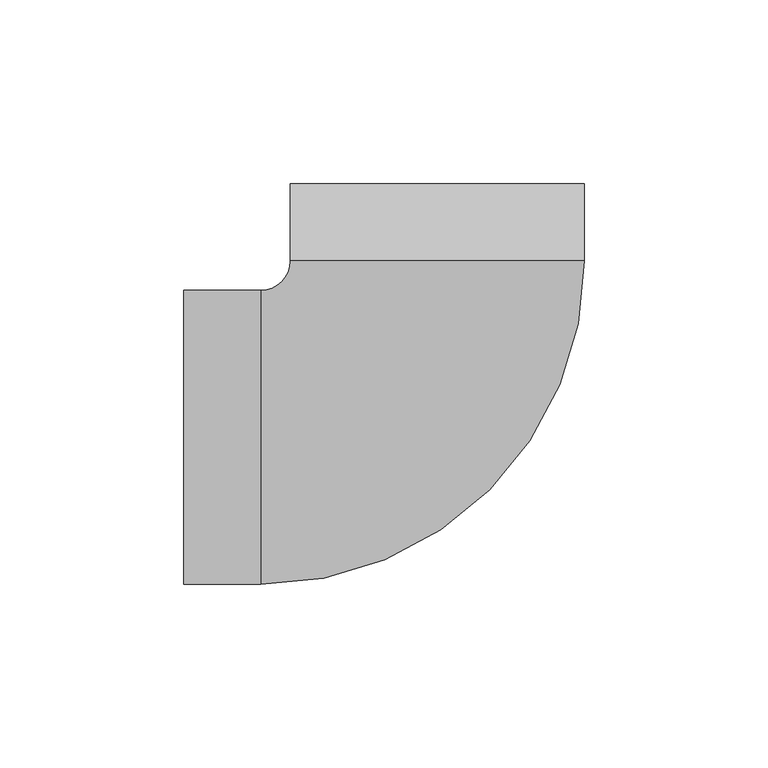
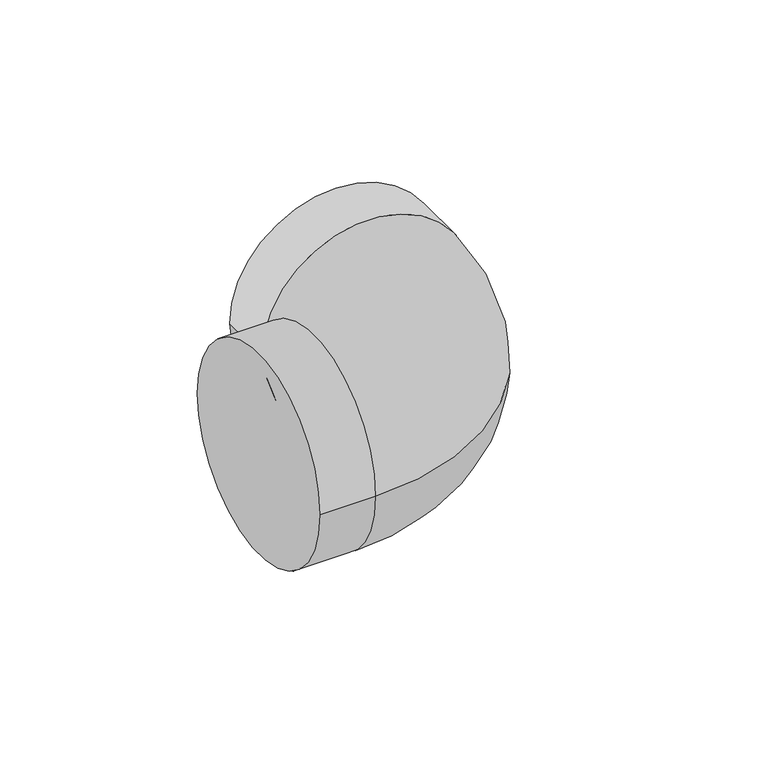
"""IFC4 building model written with IfcOpenShell, lengths in millimetres: pipe fitting geometry, PipeFitting_HTA_CPVC_Elbows : 63mm x 90°."""

from ifc_helpers import new_model, si_unit, point, frame, origin, place, context, project, spatial, circle_curve, ellipse_curve, trimmed, source, transform, mapped, element, save
from ifc_brep_helpers import plane_surface, cylinder_surface, revolved_surface, advanced_brep


def pipe_fitting_8b05869d(model_context):
    return source(origin(), model_context, "Body", "AdvancedBrep", [
        advanced_brep(
        [(-69.0, -40.0, 0.0), (-69.0, 40.0, 0.0), (-48.0, -40.0, 0.0), (-48.0, 40.0, 0.0), (-40.0, 48.0, 0.0), (40.0, 48.0, 0.0), (40.0, 69.0, 0.0), (-40.0, 69.0, 0.0)],
        [
            (0, 1, circle_curve(frame((-69.0, 0.0, 0.0), z_axis=(-1.0, 0.0, 0.0), x_axis=(0.0, 1.0, 0.0)), 40.0)),
            (1, 0, circle_curve(frame((-69.0, 0.0, 0.0), z_axis=(-1.0, 0.0, 0.0), x_axis=(0.0, 1.0, 0.0)), 40.0)),
            (0, 2),
            (2, 3, circle_curve(frame((-48.0, 0.0, 0.0), z_axis=(-1.0, 0.0, 0.0), x_axis=(0.0, 1.0, 0.0)), 40.0)),
            (3, 1),
            (3, 2, circle_curve(frame((-48.0, 0.0, 0.0), z_axis=(-1.0, 0.0, 0.0), x_axis=(0.0, 1.0, 0.0)), 40.0)),
            (4, 3, circle_curve(frame((-48.0, 48.0, 0.0), z_axis=(0.0, 0.0, -1.0), x_axis=(0.0, -1.0, 0.0)), 8.0)),
            (2, 5, circle_curve(frame((-48.0, 48.0, 0.0), z_axis=(0.0, 0.0, 1.0), x_axis=(0.0, -1.0, 0.0)), 88.0)),
            (5, 4, circle_curve(frame((0.0, 48.0, 0.0), z_axis=(0.0, -1.0, 0.0), x_axis=(-1.0, 0.0, 0.0)), 40.0)),
            (4, 5, circle_curve(frame((0.0, 48.0, 0.0), z_axis=(0.0, -1.0, 0.0), x_axis=(-1.0, 0.0, 0.0)), 40.0)),
            (6, 7, circle_curve(frame((0.0, 69.0, 0.0), z_axis=(0.0, 1.0, 0.0), x_axis=(-1.0, 0.0, 0.0)), 40.0)),
            (7, 6, circle_curve(frame((0.0, 69.0, 0.0), z_axis=(0.0, 1.0, 0.0), x_axis=(-1.0, 0.0, 0.0)), 40.0)),
            (5, 6),
            (7, 4),
        ],
        [
            plane_surface(frame((-69.0, 0.0, 0.0), z_axis=(-1.0, 0.0, 0.0), x_axis=(0.0, 0.0, 1.0))),
            cylinder_surface(frame((-69.0, 0.0, 0.0), z_axis=(-1.0, 0.0, 0.0), x_axis=(0.0, 1.0, 0.0)), 40.0),
            revolved_surface(trimmed(ellipse_curve(frame((-48.0, 0.0, 0.0), z_axis=(-1.0, 0.0, 0.0), x_axis=(0.0, 1.0, 0.0)), 40.0, 40.0), [point((-48.0, -40.0, 0.0))], [point((-48.0, 40.0, 0.0))], True, "CARTESIAN"), (-48.0, 48.0, 0.0), (0.0, 0.0, 1.0)),
            revolved_surface(trimmed(ellipse_curve(frame((-48.0, 0.0, 0.0), z_axis=(-1.0, 0.0, 0.0), x_axis=(0.0, 1.0, 0.0)), 40.0, 40.0), [point((-48.0, 40.0, 0.0))], [point((-48.0, -40.0, 0.0))], True, "CARTESIAN"), (-48.0, 48.0, 0.0), (0.0, 0.0, 1.0)),
            plane_surface(frame((0.0, 69.0, 0.0), z_axis=(0.0, 1.0, 0.0), x_axis=(0.0, 0.0, 1.0))),
            cylinder_surface(frame((0.0, 48.0, 0.0), z_axis=(0.0, -1.0, 0.0), x_axis=(-1.0, 0.0, 0.0)), 40.0),
        ],
        [
            (0, [[1, 2]]),
            (1, [[-1, 3, 4, 5]]),
            (1, [[-2, -5, 6, -3]]),
            (2, [[7, -4, 8, 9]]),
            (3, [[-8, -6, -7, 10]]),
            (4, [[11, 12]]),
            (5, [[-9, 13, -12, 14]]),
            (5, [[-10, -14, -11, -13]]),
        ],
    ),
    ])


if __name__ == "__main__":
    model = new_model("IFC4")
    model_context = context("Model", 3, world=origin())
    ifc_project = project(units=[si_unit("LENGTHUNIT", "METRE", prefix="MILLI")], contexts=[model_context])
    site = spatial("IfcSite", under=ifc_project)
    building = spatial("IfcBuilding", under=site)
    placement = place(None, origin())
    pipe_fitting_shape = pipe_fitting_8b05869d(model_context)
    element("IfcPipeFitting", 1, ObjectType="PipeFitting_HTA_CPVC_Elbows : 63mm x 90°", at=placement, inside=building, context=model_context, shape_type="MappedRepresentation", body=[
        mapped(pipe_fitting_shape, transform((0.0, 0.0, 0.0), x_axis=(1.0, 0.0, 0.0), y_axis=(0.0, 1.0, 0.0), z_axis=(0.0, 0.0, 1.0))),
    ])
    save(model, "model.ifc")
